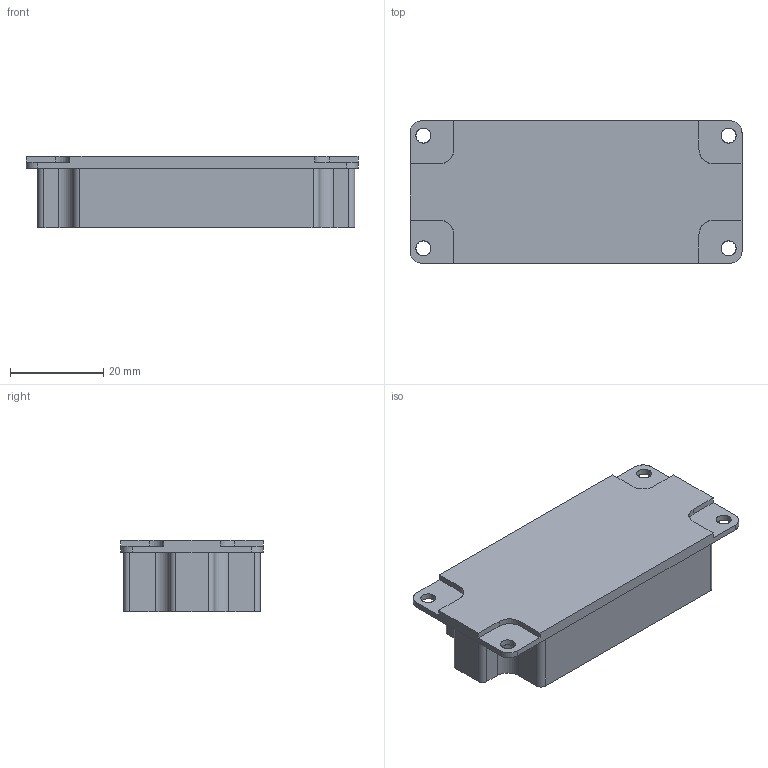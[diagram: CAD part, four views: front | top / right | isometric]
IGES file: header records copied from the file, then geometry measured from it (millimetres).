
Start section: SolidWorks IGES file using NURBS representation for surfaces
Global section: file name: E:\My Documents\Shareware Models\Electonics\Arduino\Stereo Enclosed Speaker Set - 3W 4 Ohm\Stereo Enclosed Speaker 3W 4 Ohm.IGS; native system: SolidWorks 2017; preprocessor: SolidWorks 2017; author: David Millar; date: 171029.140928; units: inch
Bounding box: 71.12 x 30.48 x 15.24 mm (x, y, z)
Surface area: 7160.1 mm2 (no closed solid volume)
Topology: 0 solids, 0 shells, 59 faces, 736 edges, 904 vertices
Faces by surface type: bspline 59
